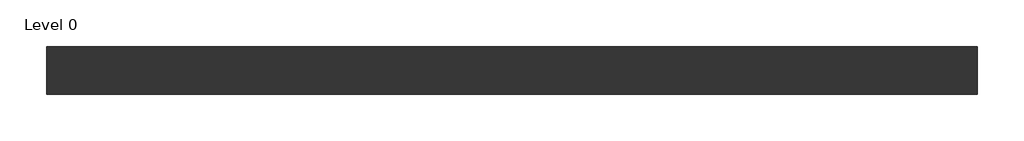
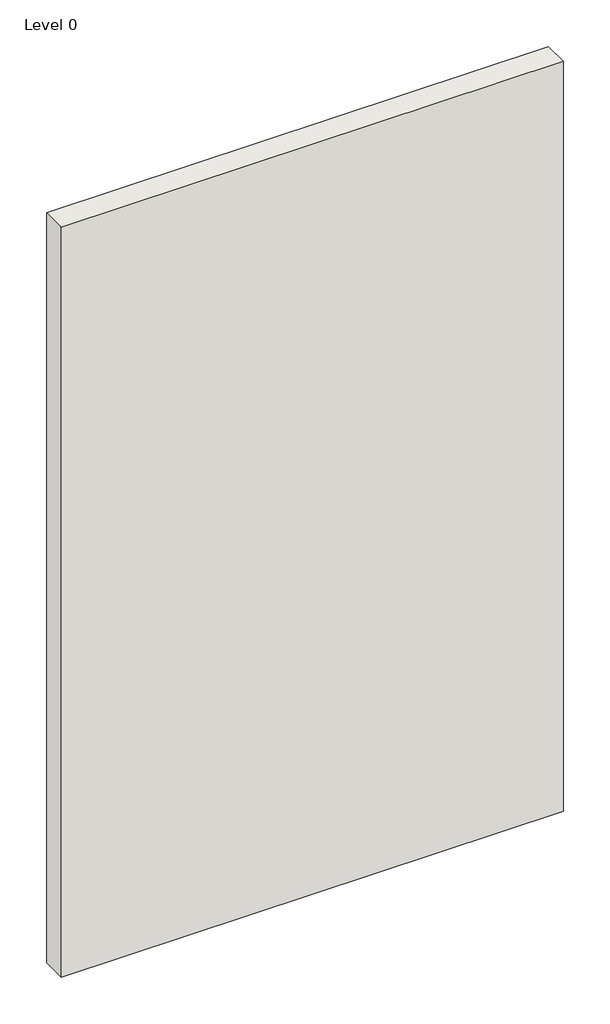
# One storey: 1 wall.
"""IFC4 building model written with IfcOpenShell, lengths in millimetres."""

from ifc_helpers import new_model, si_unit, origin, origin_with_axes, place, context, project, spatial, polyline, outline, extrude, element, save

model = new_model("IFC4")

# Units and contexts
model_context = context("Model", 3, world=origin())
ifc_project = project(units=[si_unit("LENGTHUNIT", "METRE", prefix="MILLI")], contexts=[model_context])

# Site, building, storey
site = spatial("IfcSite", under=ifc_project)
building = spatial("IfcBuilding", under=site)
storey = spatial("IfcBuildingStorey", under=building, Name="Level 0", Elevation=0.0)

# Wall
placement = place(None, origin())
element("IfcWall", 1, ObjectType="B216025(f) - GypLyner IWL", at=placement, inside=storey, context=model_context, shape_type="SweptSolid", body=[
    extrude(outline(polyline([(1155.997948, 476.0169953), (-1944.002052, 476.0169953), (-1944.002052, 634.5169953), (1155.997948, 634.5169953), (1155.997948, 476.0169953)])), origin_with_axes(), (0.0, 0.0, 1.0), 4900.0),
])

save(model, "model.ifc")
